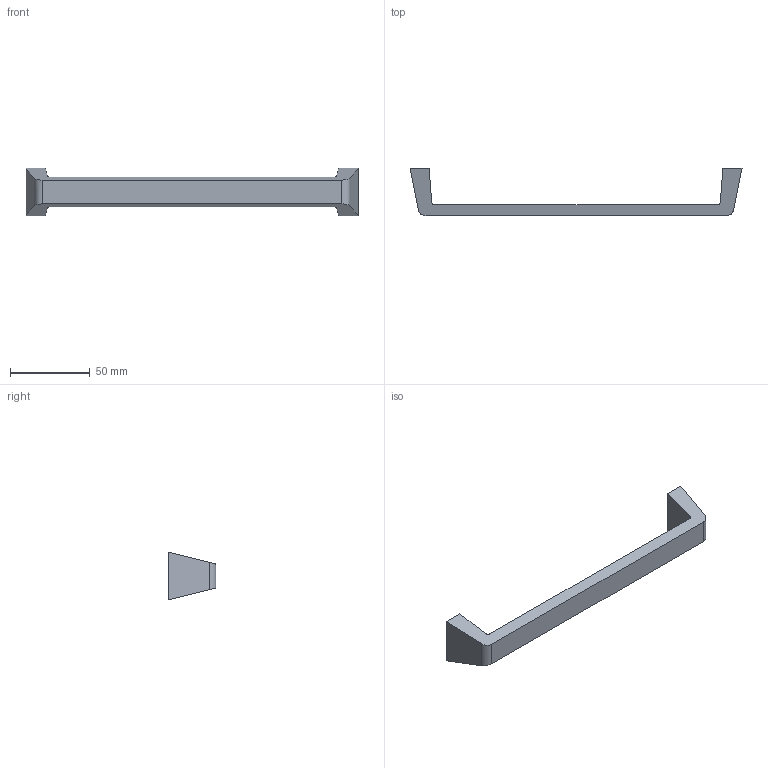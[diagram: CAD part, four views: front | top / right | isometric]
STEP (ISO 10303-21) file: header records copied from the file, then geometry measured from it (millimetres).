
FILE_DESCRIPTION( ( '' ), '1' );
FILE_NAME( 'C:/Documents and Settings/Sachin/Desktop/Sheet 10_1/stp/115076.stp', '2013-10-22T08:45:47', ( '' ), ( '' ), ' ', ' ', ' ' );
FILE_SCHEMA( ( 'CONFIG_CONTROL_DESIGN' ) );
Length unit declared in the file: millimetre
Products named in the file (1): 1
Bounding box: 208 x 30 x 30 mm (x, y, z)
Volume: 34743.1 mm3; surface area: 13468.8 mm2
Topology: 1 solids, 1 shells, 20 faces, 48 edges, 32 vertices
Faces by surface type: plane 12, cylinder 8
Entity records: 632 total; most frequent: DIRECTION 106, CARTESIAN_POINT 101, ORIENTED_EDGE 96, EDGE_CURVE 48, AXIS2_PLACEMENT_3D 37, VERTEX_POINT 32, LINE 32, VECTOR 32
